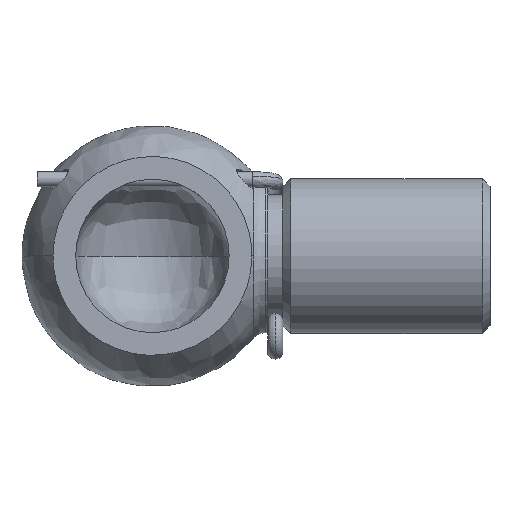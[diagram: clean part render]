
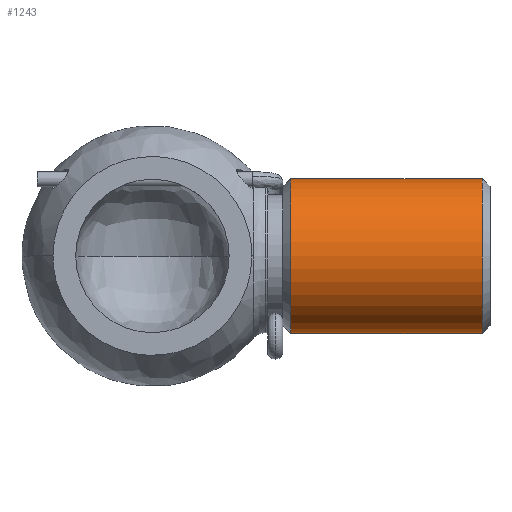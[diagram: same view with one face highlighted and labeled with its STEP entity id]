
A CAD part, top view. The second image highlights one B-rep face of the part: STEP entity #1243.
In plain terms, the highlighted cylindrical face has radius 5.05 mm (diameter 10.1 mm), a partial arc.
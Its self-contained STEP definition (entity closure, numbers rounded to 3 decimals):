
#29 = CIRCLE ( 'NONE', #1780, 5.05 ) ;
#40 = VERTEX_POINT ( 'NONE', #1760 ) ;
#79 = LINE ( 'NONE', #950, #1303 ) ;
#101 = CIRCLE ( 'NONE', #545, 5.05 ) ;
#190 = CARTESIAN_POINT ( 'NONE',  ( 22., -4.61, 0.051 ) ) ;
#281 = ORIENTED_EDGE ( 'NONE', *, *, #1165, .F. ) ;
#371 = LINE ( 'NONE', #190, #579 ) ;
#396 = EDGE_CURVE ( 'NONE', #635, #1496, #101, .T. ) ;
#419 = FACE_OUTER_BOUND ( 'NONE', #589, .T. ) ;
#467 = CARTESIAN_POINT ( 'NONE',  ( 9., -4.61, 0.051 ) ) ;
#537 = DIRECTION ( 'NONE',  ( 0., -1., 0. ) ) ;
#545 = AXIS2_PLACEMENT_3D ( 'NONE', #933, #1382, #620 ) ;
#579 = VECTOR ( 'NONE', #1859, 1000. ) ;
#589 = EDGE_LOOP ( 'NONE', ( #281, #1306, #1200, #896 ) ) ;
#620 = DIRECTION ( 'NONE',  ( 0., -1., 0. ) ) ;
#635 = VERTEX_POINT ( 'NONE', #1084 ) ;
#829 = DIRECTION ( 'NONE',  ( 1., 0., 0. ) ) ;
#896 = ORIENTED_EDGE ( 'NONE', *, *, #1319, .T. ) ;
#933 = CARTESIAN_POINT ( 'NONE',  ( 21.5, 0.44, 0.051 ) ) ;
#950 = CARTESIAN_POINT ( 'NONE',  ( 22., 5.49, 0.051 ) ) ;
#1060 = AXIS2_PLACEMENT_3D ( 'NONE', #1697, #1864, #1707 ) ;
#1063 = VERTEX_POINT ( 'NONE', #467 ) ;
#1084 = CARTESIAN_POINT ( 'NONE',  ( 21.5, -4.61, 0.051 ) ) ;
#1136 = CARTESIAN_POINT ( 'NONE',  ( 9., 0.44, 0.051 ) ) ;
#1165 = EDGE_CURVE ( 'NONE', #635, #1063, #371, .T. ) ;
#1194 = EDGE_CURVE ( 'NONE', #1496, #40, #79, .T. ) ;
#1200 = ORIENTED_EDGE ( 'NONE', *, *, #1194, .T. ) ;
#1243 = ADVANCED_FACE ( 'NONE', ( #419 ), #1584, .T. ) ;
#1303 = VECTOR ( 'NONE', #1546, 1000. ) ;
#1306 = ORIENTED_EDGE ( 'NONE', *, *, #396, .T. ) ;
#1319 = EDGE_CURVE ( 'NONE', #40, #1063, #29, .T. ) ;
#1382 = DIRECTION ( 'NONE',  ( -1., 0., 0. ) ) ;
#1496 = VERTEX_POINT ( 'NONE', #1767 ) ;
#1546 = DIRECTION ( 'NONE',  ( -1., 0., 0. ) ) ;
#1584 = CYLINDRICAL_SURFACE ( 'NONE', #1060, 5.05 ) ;
#1697 = CARTESIAN_POINT ( 'NONE',  ( 22., 0.44, 0.051 ) ) ;
#1707 = DIRECTION ( 'NONE',  ( 0., 1., 0. ) ) ;
#1760 = CARTESIAN_POINT ( 'NONE',  ( 9., 5.49, 0.051 ) ) ;
#1767 = CARTESIAN_POINT ( 'NONE',  ( 21.5, 5.49, 0.051 ) ) ;
#1780 = AXIS2_PLACEMENT_3D ( 'NONE', #1136, #829, #537 ) ;
#1859 = DIRECTION ( 'NONE',  ( -1., 0., 0. ) ) ;
#1864 = DIRECTION ( 'NONE',  ( -1., 0., 0. ) ) ;
